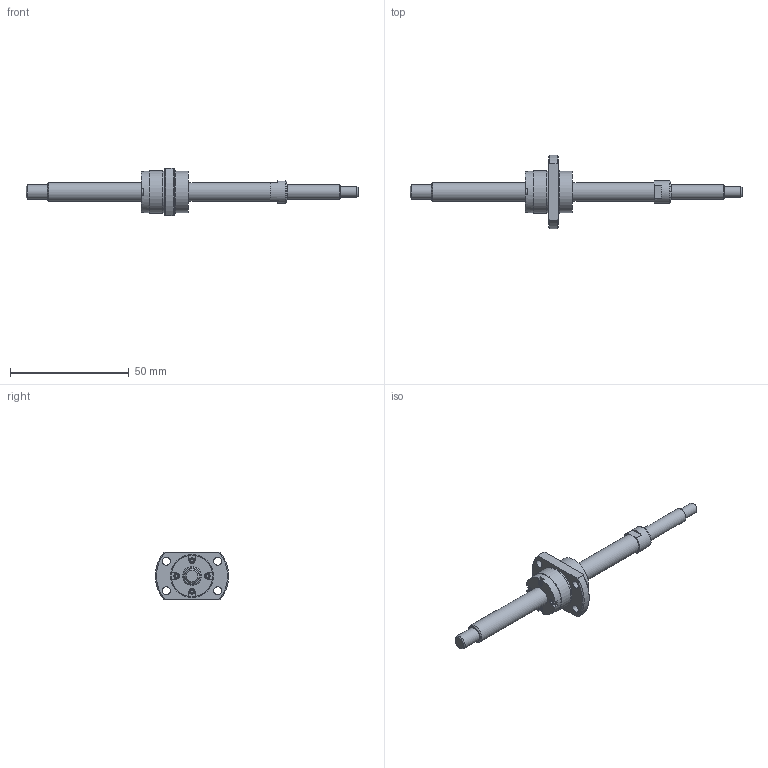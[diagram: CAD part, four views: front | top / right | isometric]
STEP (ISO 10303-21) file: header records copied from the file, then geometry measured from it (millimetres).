
FILE_DESCRIPTION(/* description */ ('STEP AP214'),/* implementation_level */ '2;1');
FILE_NAME(/* name */ 'SG0808-090R140C5C0X(39.5)',/* time_stamp */ '2026-07-21T16:52:52+02:00',/* author */ ('License CC BY-ND 4.0'),/* organization */ ('CADENAS'),/* preprocessor_version */ 'ST-DEVELOPER v20',/* originating_system */ 'PARTsolutions',/* authorisation */ ' ');
FILE_SCHEMA (('AUTOMOTIVE_DESIGN {1 0 10303 214 3 1 1}'));
Length unit declared in the file: millimetre
Products named in the file (3): SG0808-090R140C5C0X(39.5); SG0808-90R140C5C_shaft; SG0808 C5_nut
Assembly tree (2 placements, depth 2):
  SG0808-090R140C5C0X(39.5)
    SG0808-90R140C5C_shaft
    SG0808 C5_nut
Bounding box: 140 x 30.91 x 20 mm (x, y, z)
Volume: 11238 mm3; surface area: 6351.3 mm2
Topology: 2 solids, 2 shells, 103 faces, 236 edges, 153 vertices
Faces by surface type: plane 64, cylinder 25, cone 13, torus 1
Full cylindrical faces by diameter (mm): 2.25 x4, 3.4 x4, 4.5 x1, 6 x2, 8 x2, 9.5 x1, 17.45 x3, 18 x2
Entity records: 2841 total; most frequent: CARTESIAN_POINT 486, DIRECTION 484, ORIENTED_EDGE 410, EDGE_CURVE 205, AXIS2_PLACEMENT_3D 181, EDGE_LOOP 158, FACE_BOUND 158, VERTEX_POINT 151
